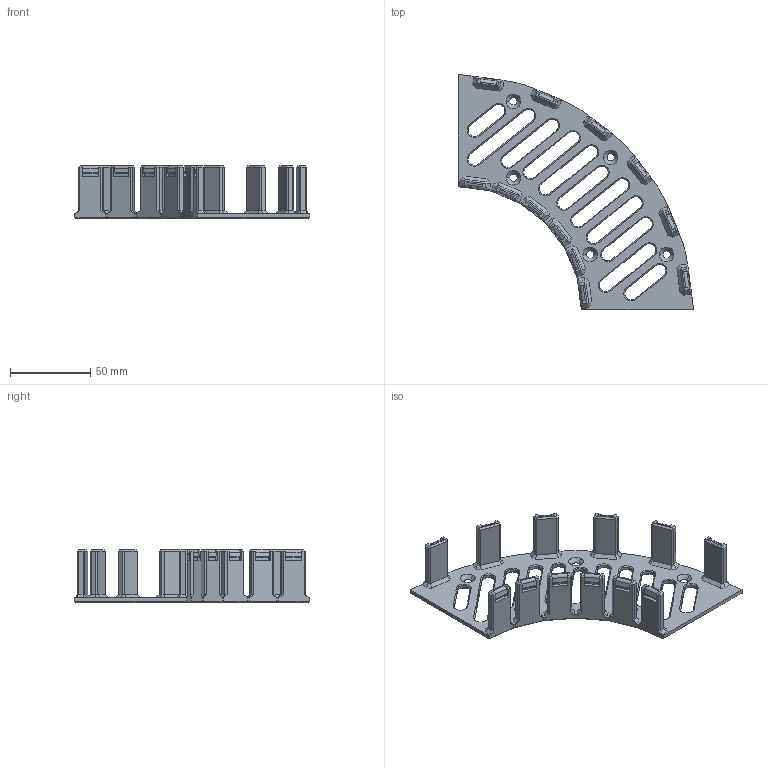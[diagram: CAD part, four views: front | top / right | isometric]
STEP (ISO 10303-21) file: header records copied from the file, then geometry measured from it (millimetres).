
FILE_DESCRIPTION (( 'STEP AP203' ), '1' );
FILE_NAME ('tray__corner--screwMount--30mm.STEP', '2024-02-16T03:21:23', ( '' ), ( '' ), 'SwSTEP 2.0', 'SolidWorks 2020', '' );
FILE_SCHEMA (( 'CONFIG_CONTROL_DESIGN' ));
Length unit declared in the file: millimetre
Products named in the file (1): tray__corner--screwMount--30mm
Bounding box: 146.58 x 146.57 x 33 mm (x, y, z)
Volume: 50833.3 mm3; surface area: 34474.7 mm2
Topology: 1 solids, 1 shells, 623 faces, 1498 edges, 877 vertices
Faces by surface type: plane 472, cone 96, cylinder 55
Entity records: 17600 total; most frequent: CARTESIAN_POINT 2999, ORIENTED_EDGE 2996, DIRECTION 2973, EDGE_CURVE 1498, LINE 1271, VECTOR 1271, VERTEX_POINT 877, AXIS2_PLACEMENT_3D 851
